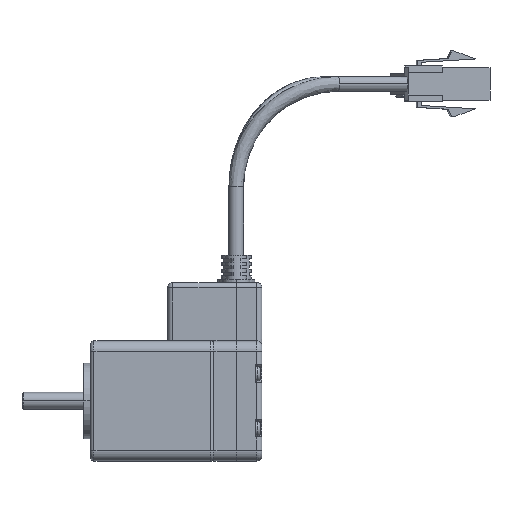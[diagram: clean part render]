
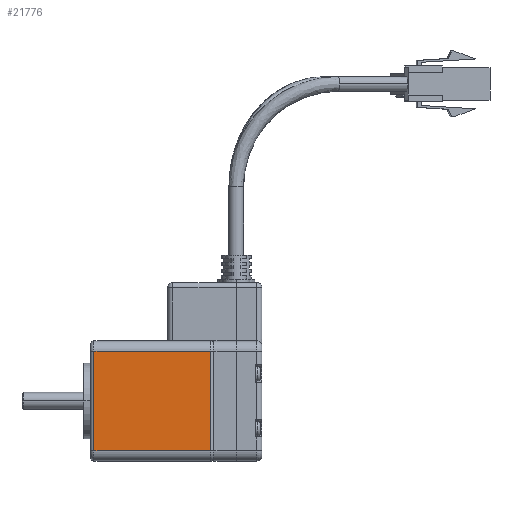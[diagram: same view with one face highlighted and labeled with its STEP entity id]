
A CAD part, top view. The second image highlights one B-rep face of the part: STEP entity #21776.
In plain terms, the highlighted planar face has unit normal (0, 0, 1).
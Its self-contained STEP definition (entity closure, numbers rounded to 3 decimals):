
#40 = VERTEX_POINT ( 'NONE', #1300 ) ;
#186 = PLANE ( 'NONE',  #10216 ) ;
#1300 = CARTESIAN_POINT ( 'NONE',  ( 35., 3., 0. ) ) ;
#1557 = ORIENTED_EDGE ( 'NONE', *, *, #4313, .T. ) ;
#1713 = EDGE_LOOP ( 'NONE', ( #9851, #9084, #1557, #5787 ) ) ;
#1949 = CARTESIAN_POINT ( 'NONE',  ( 35., 3., 0. ) ) ;
#1958 = DIRECTION ( 'NONE',  ( 1., 0., 0. ) ) ;
#2308 = VERTEX_POINT ( 'NONE', #20523 ) ;
#2396 = CARTESIAN_POINT ( 'NONE',  ( 35., 0., 0. ) ) ;
#2857 = VECTOR ( 'NONE', #4205, 1000. ) ;
#3602 = EDGE_CURVE ( 'NONE', #4352, #11546, #22205, .T. ) ;
#3919 = DIRECTION ( 'NONE',  ( -1., 0., 0. ) ) ;
#4205 = DIRECTION ( 'NONE',  ( 0., 1., 0. ) ) ;
#4313 = EDGE_CURVE ( 'NONE', #40, #4352, #21890, .T. ) ;
#4352 = VERTEX_POINT ( 'NONE', #11472 ) ;
#4745 = VECTOR ( 'NONE', #5778, 1000. ) ;
#4760 = VECTOR ( 'NONE', #17990, 1000. ) ;
#5354 = EDGE_CURVE ( 'NONE', #2308, #40, #9526, .T. ) ;
#5778 = DIRECTION ( 'NONE',  ( 0., -1., 0. ) ) ;
#5787 = ORIENTED_EDGE ( 'NONE', *, *, #3602, .T. ) ;
#7940 = VECTOR ( 'NONE', #3919, 1000. ) ;
#9084 = ORIENTED_EDGE ( 'NONE', *, *, #5354, .T. ) ;
#9219 = CARTESIAN_POINT ( 'NONE',  ( 1., 0., 0. ) ) ;
#9512 = LINE ( 'NONE', #9219, #4745 ) ;
#9526 = LINE ( 'NONE', #1949, #4760 ) ;
#9851 = ORIENTED_EDGE ( 'NONE', *, *, #23050, .T. ) ;
#10216 = AXIS2_PLACEMENT_3D ( 'NONE', #18008, #12695, #1958 ) ;
#11017 = CARTESIAN_POINT ( 'NONE',  ( 36., 32., 0. ) ) ;
#11472 = CARTESIAN_POINT ( 'NONE',  ( 35., 32., 0. ) ) ;
#11546 = VERTEX_POINT ( 'NONE', #19519 ) ;
#12695 = DIRECTION ( 'NONE',  ( 0., 0., 1. ) ) ;
#17990 = DIRECTION ( 'NONE',  ( 1., 0., 0. ) ) ;
#18008 = CARTESIAN_POINT ( 'NONE',  ( 36., 0., 0. ) ) ;
#18517 = FACE_OUTER_BOUND ( 'NONE', #1713, .T. ) ;
#19519 = CARTESIAN_POINT ( 'NONE',  ( 1., 32., 0. ) ) ;
#20523 = CARTESIAN_POINT ( 'NONE',  ( 1., 3., 0. ) ) ;
#21776 = ADVANCED_FACE ( 'NONE', ( #18517 ), #186, .T. ) ;
#21890 = LINE ( 'NONE', #2396, #2857 ) ;
#22205 = LINE ( 'NONE', #11017, #7940 ) ;
#23050 = EDGE_CURVE ( 'NONE', #11546, #2308, #9512, .T. ) ;
